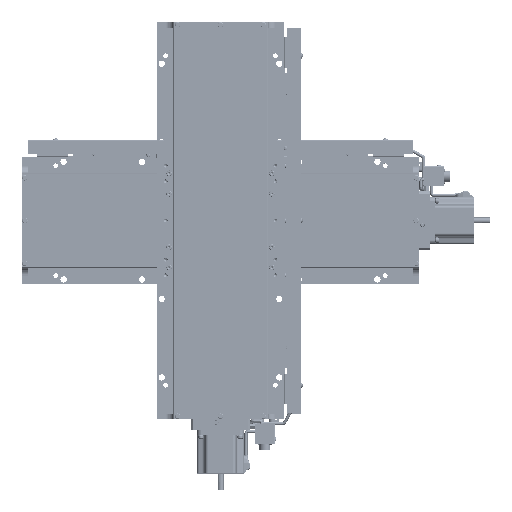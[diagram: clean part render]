
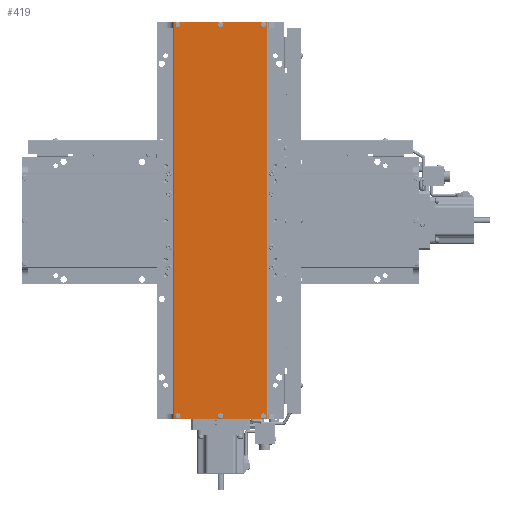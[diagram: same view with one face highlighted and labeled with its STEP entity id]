
A CAD part, top view. The second image highlights one B-rep face of the part: STEP entity #419.
In plain terms, the highlighted planar face has unit normal (0, 0, 1).
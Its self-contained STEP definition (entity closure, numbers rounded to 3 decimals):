
#419=ADVANCED_FACE('',(#7436,#7437,#7438,#7439,#7440,#7441,#7442),#7435,.T.);
#7435=PLANE('',#59556);
#7436=FACE_OUTER_BOUND('',#59557,.T.);
#7437=FACE_BOUND('',#59558,.T.);
#7438=FACE_BOUND('',#59559,.T.);
#7439=FACE_BOUND('',#59560,.T.);
#7440=FACE_BOUND('',#59561,.T.);
#7441=FACE_BOUND('',#59562,.T.);
#7442=FACE_BOUND('',#59563,.T.);
#59553=CARTESIAN_POINT('',(-69.5,-263.,128.5));
#59554=DIRECTION('',(0.,0.,1.));
#59555=DIRECTION('',(1.,0.,0.));
#59556=AXIS2_PLACEMENT_3D('',#59553,#59554,#59555);
#59557=EDGE_LOOP('',(#92246,#92247,#92248,#92249,#92250,#92251));
#59558=EDGE_LOOP('',(#92252,#92253));
#59559=EDGE_LOOP('',(#92254,#92255));
#59560=EDGE_LOOP('',(#92256,#92257));
#59561=EDGE_LOOP('',(#92258,#92259));
#59562=EDGE_LOOP('',(#92260,#92261));
#59563=EDGE_LOOP('',(#92262,#92263));
#92246=ORIENTED_EDGE('',*,*,#117417,.T.);
#92247=ORIENTED_EDGE('',*,*,#117418,.T.);
#92248=ORIENTED_EDGE('',*,*,#117401,.F.);
#92249=ORIENTED_EDGE('',*,*,#117419,.F.);
#92250=ORIENTED_EDGE('',*,*,#117371,.F.);
#92251=ORIENTED_EDGE('',*,*,#117420,.T.);
#92252=ORIENTED_EDGE('',*,*,#117421,.F.);
#92253=ORIENTED_EDGE('',*,*,#117422,.F.);
#92254=ORIENTED_EDGE('',*,*,#117423,.F.);
#92255=ORIENTED_EDGE('',*,*,#117424,.F.);
#92256=ORIENTED_EDGE('',*,*,#117425,.F.);
#92257=ORIENTED_EDGE('',*,*,#117426,.F.);
#92258=ORIENTED_EDGE('',*,*,#117427,.F.);
#92259=ORIENTED_EDGE('',*,*,#117428,.F.);
#92260=ORIENTED_EDGE('',*,*,#117429,.F.);
#92261=ORIENTED_EDGE('',*,*,#117430,.F.);
#92262=ORIENTED_EDGE('',*,*,#117431,.F.);
#92263=ORIENTED_EDGE('',*,*,#117432,.F.);
#117371=EDGE_CURVE('',#133191,#133198,#133199,.T.);
#117401=EDGE_CURVE('',#133401,#133408,#133409,.T.);
#117417=EDGE_CURVE('',#133519,#133520,#133521,.T.);
#117418=EDGE_CURVE('',#133520,#133408,#133527,.T.);
#117419=EDGE_CURVE('',#133198,#133401,#133533,.T.);
#117420=EDGE_CURVE('',#133191,#133519,#133539,.T.);
#117421=EDGE_CURVE('',#133545,#133546,#133547,.T.);
#117422=EDGE_CURVE('',#133546,#133545,#133553,.T.);
#117423=EDGE_CURVE('',#133559,#133560,#133561,.T.);
#117424=EDGE_CURVE('',#133560,#133559,#133567,.T.);
#117425=EDGE_CURVE('',#133573,#133574,#133575,.T.);
#117426=EDGE_CURVE('',#133574,#133573,#133581,.T.);
#117427=EDGE_CURVE('',#133587,#133588,#133589,.T.);
#117428=EDGE_CURVE('',#133588,#133587,#133595,.T.);
#117429=EDGE_CURVE('',#133601,#133602,#133603,.T.);
#117430=EDGE_CURVE('',#133602,#133601,#133609,.T.);
#117431=EDGE_CURVE('',#133615,#133616,#133617,.T.);
#117432=EDGE_CURVE('',#133616,#133615,#133623,.T.);
#133191=VERTEX_POINT('',#216764);
#133198=VERTEX_POINT('',#216769);
#133199=LINE('',#216770,#216771);
#133401=VERTEX_POINT('',#216889);
#133408=VERTEX_POINT('',#216893);
#133409=LINE('',#216894,#216895);
#133519=VERTEX_POINT('',#216963);
#133520=VERTEX_POINT('',#216964);
#133521=LINE('',#216965,#216966);
#133527=LINE('',#216968,#216969);
#133533=LINE('',#216971,#216972);
#133539=LINE('',#216974,#216975);
#133545=VERTEX_POINT('',#216977);
#133546=VERTEX_POINT('',#216978);
#133547=CIRCLE('',#216982,3.495);
#133553=CIRCLE('',#216986,3.495);
#133559=VERTEX_POINT('',#216987);
#133560=VERTEX_POINT('',#216988);
#133561=CIRCLE('',#216992,3.495);
#133567=CIRCLE('',#216996,3.495);
#133573=VERTEX_POINT('',#216997);
#133574=VERTEX_POINT('',#216998);
#133575=CIRCLE('',#217002,3.495);
#133581=CIRCLE('',#217006,3.495);
#133587=VERTEX_POINT('',#217007);
#133588=VERTEX_POINT('',#217008);
#133589=CIRCLE('',#217012,3.495);
#133595=CIRCLE('',#217016,3.495);
#133601=VERTEX_POINT('',#217017);
#133602=VERTEX_POINT('',#217018);
#133603=CIRCLE('',#217022,3.495);
#133609=CIRCLE('',#217026,3.495);
#133615=VERTEX_POINT('',#217027);
#133616=VERTEX_POINT('',#217028);
#133617=CIRCLE('',#217032,3.495);
#133623=CIRCLE('',#217036,3.495);
#216764=CARTESIAN_POINT('',(59.5,-253.,128.5));
#216769=CARTESIAN_POINT('',(35.,-253.,128.5));
#216770=CARTESIAN_POINT('',(59.5,-253.,128.5));
#216771=VECTOR('',#216772,24.5);
#216772=DIRECTION('',(-1.,0.,0.));
#216889=CARTESIAN_POINT('',(-35.,-253.,128.5));
#216893=CARTESIAN_POINT('',(-59.5,-253.,128.5));
#216894=CARTESIAN_POINT('',(-35.,-253.,128.5));
#216895=VECTOR('',#216896,24.5);
#216896=DIRECTION('',(-1.,0.,0.));
#216963=CARTESIAN_POINT('',(59.5,253.,128.5));
#216964=CARTESIAN_POINT('',(-59.5,253.,128.5));
#216965=CARTESIAN_POINT('',(59.5,253.,128.5));
#216966=VECTOR('',#216967,119.);
#216967=DIRECTION('',(-1.,0.,0.));
#216968=CARTESIAN_POINT('',(-59.5,253.,128.5));
#216969=VECTOR('',#216970,506.);
#216970=DIRECTION('',(0.,-1.,0.));
#216971=CARTESIAN_POINT('',(35.,-253.,128.5));
#216972=VECTOR('',#216973,70.);
#216973=DIRECTION('',(-1.,0.,0.));
#216974=CARTESIAN_POINT('',(59.5,-253.,128.5));
#216975=VECTOR('',#216976,506.);
#216976=DIRECTION('',(0.,1.,0.));
#216977=CARTESIAN_POINT('',(-3.495,249.5,128.5));
#216978=CARTESIAN_POINT('',(3.495,249.5,128.5));
#216979=CARTESIAN_POINT('',(0.,249.5,128.5));
#216980=DIRECTION('',(0.,0.,1.));
#216981=DIRECTION('',(1.,0.,0.));
#216982=AXIS2_PLACEMENT_3D('',#216979,#216980,#216981);
#216983=CARTESIAN_POINT('',(0.,249.5,128.5));
#216984=DIRECTION('',(0.,0.,1.));
#216985=DIRECTION('',(1.,0.,0.));
#216986=AXIS2_PLACEMENT_3D('',#216983,#216984,#216985);
#216987=CARTESIAN_POINT('',(51.005,249.5,128.5));
#216988=CARTESIAN_POINT('',(57.995,249.5,128.5));
#216989=CARTESIAN_POINT('',(54.5,249.5,128.5));
#216990=DIRECTION('',(0.,0.,1.));
#216991=DIRECTION('',(1.,0.,0.));
#216992=AXIS2_PLACEMENT_3D('',#216989,#216990,#216991);
#216993=CARTESIAN_POINT('',(54.5,249.5,128.5));
#216994=DIRECTION('',(0.,0.,1.));
#216995=DIRECTION('',(1.,0.,0.));
#216996=AXIS2_PLACEMENT_3D('',#216993,#216994,#216995);
#216997=CARTESIAN_POINT('',(-57.995,-249.5,128.5));
#216998=CARTESIAN_POINT('',(-51.005,-249.5,128.5));
#216999=CARTESIAN_POINT('',(-54.5,-249.5,128.5));
#217000=DIRECTION('',(0.,0.,1.));
#217001=DIRECTION('',(1.,0.,0.));
#217002=AXIS2_PLACEMENT_3D('',#216999,#217000,#217001);
#217003=CARTESIAN_POINT('',(-54.5,-249.5,128.5));
#217004=DIRECTION('',(0.,0.,1.));
#217005=DIRECTION('',(1.,0.,0.));
#217006=AXIS2_PLACEMENT_3D('',#217003,#217004,#217005);
#217007=CARTESIAN_POINT('',(-3.495,-249.5,128.5));
#217008=CARTESIAN_POINT('',(3.495,-249.5,128.5));
#217009=CARTESIAN_POINT('',(0.,-249.5,128.5));
#217010=DIRECTION('',(0.,0.,1.));
#217011=DIRECTION('',(1.,0.,0.));
#217012=AXIS2_PLACEMENT_3D('',#217009,#217010,#217011);
#217013=CARTESIAN_POINT('',(0.,-249.5,128.5));
#217014=DIRECTION('',(0.,0.,1.));
#217015=DIRECTION('',(1.,0.,0.));
#217016=AXIS2_PLACEMENT_3D('',#217013,#217014,#217015);
#217017=CARTESIAN_POINT('',(51.005,-249.5,128.5));
#217018=CARTESIAN_POINT('',(57.995,-249.5,128.5));
#217019=CARTESIAN_POINT('',(54.5,-249.5,128.5));
#217020=DIRECTION('',(0.,0.,1.));
#217021=DIRECTION('',(1.,0.,0.));
#217022=AXIS2_PLACEMENT_3D('',#217019,#217020,#217021);
#217023=CARTESIAN_POINT('',(54.5,-249.5,128.5));
#217024=DIRECTION('',(0.,0.,1.));
#217025=DIRECTION('',(1.,0.,0.));
#217026=AXIS2_PLACEMENT_3D('',#217023,#217024,#217025);
#217027=CARTESIAN_POINT('',(-57.995,249.5,128.5));
#217028=CARTESIAN_POINT('',(-51.005,249.5,128.5));
#217029=CARTESIAN_POINT('',(-54.5,249.5,128.5));
#217030=DIRECTION('',(0.,0.,1.));
#217031=DIRECTION('',(1.,0.,0.));
#217032=AXIS2_PLACEMENT_3D('',#217029,#217030,#217031);
#217033=CARTESIAN_POINT('',(-54.5,249.5,128.5));
#217034=DIRECTION('',(0.,0.,1.));
#217035=DIRECTION('',(1.,0.,0.));
#217036=AXIS2_PLACEMENT_3D('',#217033,#217034,#217035);
